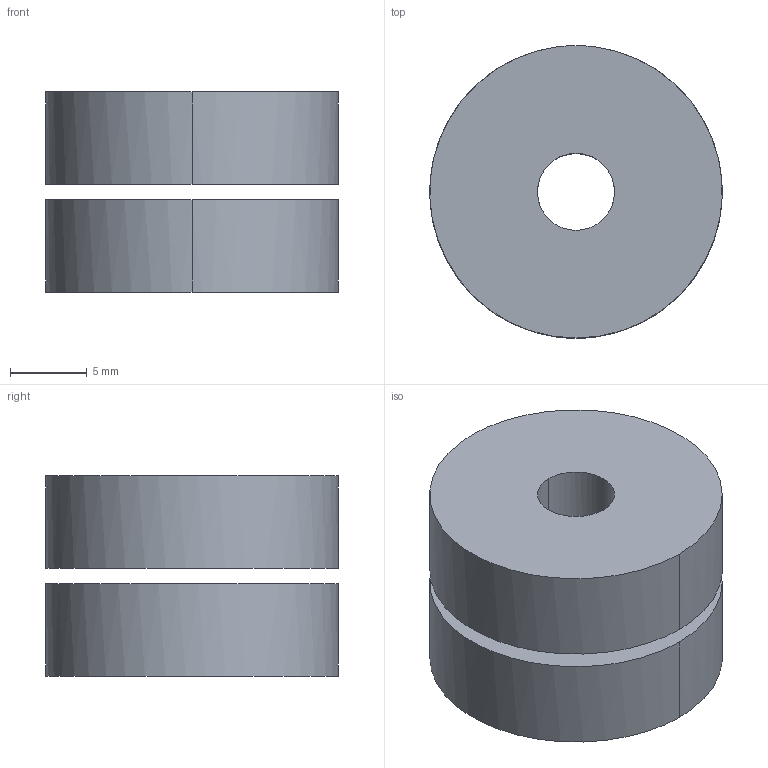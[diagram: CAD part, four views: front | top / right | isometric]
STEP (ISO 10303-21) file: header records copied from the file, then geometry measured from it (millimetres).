
FILE_DESCRIPTION(/* description */ (''),/* implementation_level */ '2;1');
FILE_NAME(/* name */ 'X-DRIV~3',/* time_stamp */ '2014-02-14T19:45:22+01:00',/* author */ (''),/* organization */ (''),/* preprocessor_version */ 'ST-DEVELOPER v14',/* originating_system */ '',/* authorisation */ '');
FILE_SCHEMA (('AUTOMOTIVE_DESIGN'));
Length unit declared in the file: millimetre
Products named in the file (2): Document; ball bearing 5x19x6mm
Assembly tree (2 placements, depth 2):
  Document
    ball bearing 5x19x6mm  x2
Bounding box: 18.98 x 19 x 13 mm (x, y, z)
Volume: 3173.1 mm3; surface area: 1960.5 mm2
Topology: 2 solids, 2 shells, 12 faces, 24 edges, 16 vertices
Faces by surface type: bspline 8, plane 4
Entity records: 420 total; most frequent: CARTESIAN_POINT 207, ORIENTED_EDGE 24, PCURVE 24, DEFINITIONAL_REPRESENTATION 24, B_SPLINE_CURVE_WITH_KNOTS 16, SURFACE_CURVE 12, EDGE_CURVE 12, DIRECTION 12
